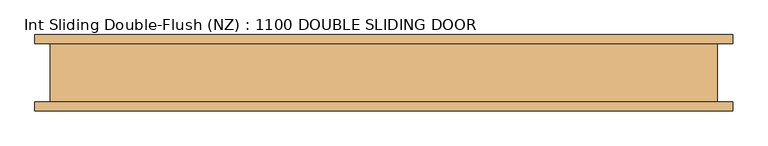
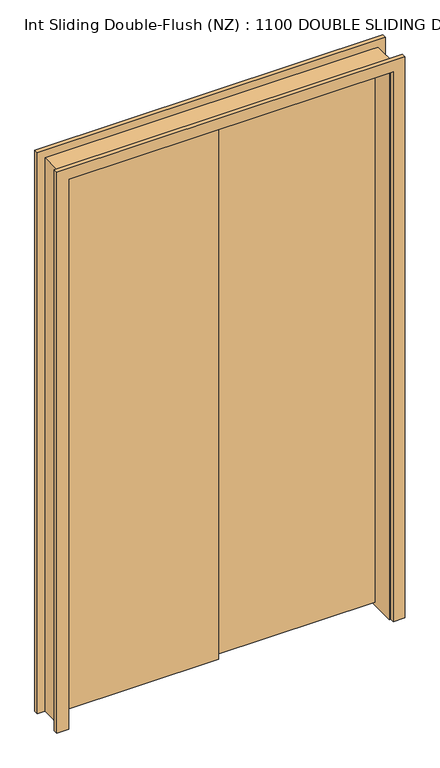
"""IFC4 building model written with IfcOpenShell, lengths in millimetres: door geometry, Int Sliding Double-Flush (NZ) : 1100 DOUBLE SLIDING DOOR."""

from ifc_helpers import new_model, si_unit, point, frame, frame_2d, origin, place, context, project, spatial, polyline, circle_curve, trimmed, segment, composite_curve, outline, extrude, source, transform, mapped, element, save


def int_sliding_double_flush_nz_1100_double_sliding_door_f9a858bd(model_context):
    return source(origin(), model_context, "Body", "SweptSolid", [
        extrude(outline(polyline([(2025.0, 588.742858), (2025.0, -601.257142), (0.0, -601.257142), (0.0, -561.257142), (1985.0, -561.257142), (1985.0, 548.742858), (0.0, 548.742858), (0.0, 588.742858), (2025.0, 588.742858)])), frame((0.0, 50.0, 0.0), z_axis=(0.0, 1.0, 0.0), x_axis=(0.0, 0.0, 1.0)), (0.0, 0.0, 1.0), 15.0),
        extrude(outline(polyline([(2025.0, -601.257142), (0.0, -601.257142), (0.0, -561.257142), (1985.0, -561.257142), (1985.0, 548.742858), (0.0, 548.742858), (0.0, 588.742858), (2025.0, 588.742858), (2025.0, -601.257142)])), frame((0.0, -65.0, 0.0), z_axis=(0.0, 1.0, 0.0), x_axis=(0.0, 0.0, 1.0)), (0.0, 0.0, 1.0), 15.0),
        extrude(outline(polyline([(1999.0, -575.257142), (0.0, -575.257142), (0.0, -556.257142), (1980.0, -556.257142), (1980.0, 543.742858), (0.0, 543.742858), (0.0, 562.742858), (1999.0, 562.742858), (1999.0, -575.257142)])), frame((0.0, -50.0, 0.0), z_axis=(0.0, 1.0, 0.0), x_axis=(0.0, 0.0, 1.0)), (0.0, 0.0, 1.0), 100.0),
        extrude(outline(polyline([(1999.0, -575.257142), (0.0, -575.257142), (0.0, -556.257142), (1980.0, -556.257142), (1980.0, 543.742858), (0.0, 543.742858), (0.0, 562.742858), (1999.0, 562.742858), (1999.0, -575.257142)])), frame((0.0, -50.0, 0.0), z_axis=(0.0, 1.0, 0.0), x_axis=(0.0, 0.0, 1.0)), (0.0, 0.0, 1.0), 100.0),
        extrude(outline(composite_curve([segment(trimmed(circle_curve(frame_2d((1015.0, 465.742858)), 25.0), [point((1015.0, 490.742858))], [point((1015.0, 440.742858))], False, "CARTESIAN"), True, "CONTINUOUS"), segment(trimmed(circle_curve(frame_2d((1015.0, 465.742858)), 25.0), [point((1015.0, 440.742858))], [point((1015.0, 490.742858))], False, "CARTESIAN"), True, "CONTINUOUS")], self_intersect=False)), frame((0.0, 45.0, 0.0), z_axis=(0.0, 1.0, 0.0), x_axis=(0.0, 0.0, 1.0)), (0.0, 0.0, 1.0), 10.0),
        extrude(outline(composite_curve([segment(trimmed(circle_curve(frame_2d((1015.0, -478.257142)), 25.0), [point((1015.0, -453.257142))], [point((1015.0, -503.257142))], False, "CARTESIAN"), True, "CONTINUOUS"), segment(trimmed(circle_curve(frame_2d((1015.0, -478.257142)), 25.0), [point((1015.0, -503.257142))], [point((1015.0, -453.257142))], False, "CARTESIAN"), True, "CONTINUOUS")], self_intersect=False)), frame((0.0, 28.0, 0.0), z_axis=(0.0, 1.0, 0.0), x_axis=(0.0, 0.0, 1.0)), (0.0, 0.0, 1.0), 9.5143417),
        extrude(outline(polyline([(-6.257142, 8.2190355), (-553.257142, 8.2190355), (-553.257142, 31.0), (-6.257142, 31.0), (-6.257142, 8.2190355)])), frame((0.0, 0.0, 13.753223), z_axis=(0.0, 0.0, 1.0), x_axis=(1.0, 0.0, 0.0)), (0.0, 0.0, 1.0), 1966.246777),
        extrude(outline(polyline([(540.742858, 31.0), (-6.257142, 31.0), (-6.257142, 50.0), (540.742858, 50.0), (540.742858, 31.0)])), frame((0.0, 0.0, 13.753223), z_axis=(0.0, 0.0, 1.0), x_axis=(1.0, 0.0, 0.0)), (0.0, 0.0, 1.0), 1966.246777),
    ])


if __name__ == "__main__":
    model = new_model("IFC4")
    model_context = context("Model", 3, world=origin())
    ifc_project = project(units=[si_unit("LENGTHUNIT", "METRE", prefix="MILLI")], contexts=[model_context])
    site = spatial("IfcSite", under=ifc_project)
    building = spatial("IfcBuilding", under=site)
    placement = place(None, origin())
    int_sliding_double_flush_nz_1100_double_sliding_door_shape = int_sliding_double_flush_nz_1100_double_sliding_door_f9a858bd(model_context)
    element("IfcDoor", 1, ObjectType="Int Sliding Double-Flush (NZ) : 1100 DOUBLE SLIDING DOOR", at=placement, inside=building, context=model_context, shape_type="MappedRepresentation", body=[
        mapped(int_sliding_double_flush_nz_1100_double_sliding_door_shape, transform((0.0, 0.0, 0.0), x_axis=(1.0, 0.0, 0.0), y_axis=(0.0, 1.0, 0.0), z_axis=(0.0, 0.0, 1.0))),
    ])
    save(model, "model.ifc")
